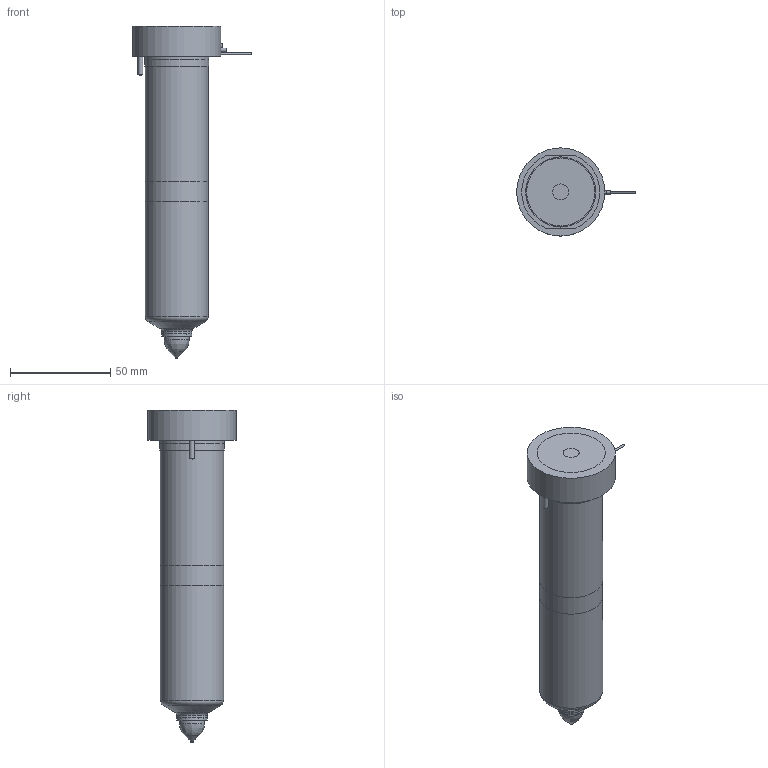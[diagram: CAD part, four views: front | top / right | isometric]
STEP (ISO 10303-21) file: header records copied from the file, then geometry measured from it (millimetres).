
FILE_DESCRIPTION(/* description */ (''),/* implementation_level */ '2;1');
FILE_NAME(/* name */ 'MXTT-MXIT19145-5_250C_b',/* time_stamp */ '2007-01-18T09:53:33+13:00',/* author */ (''),/* organization */ (''),/* preprocessor_version */ 'ST-DEVELOPER v9',/* originating_system */ 'UGS - NX 4.0',/* authorisation */ '');
FILE_SCHEMA (('CONFIG_CONTROL_DESIGN'));
Length unit declared in the file: millimetre
Products named in the file (1): MXTT-MXIT19145-5_250C_b
Bounding box: 59.25 x 44 x 165.69 mm (x, y, z)
Volume: 222667.8 mm3; surface area: 38013 mm2
Topology: 7 solids, 7 shells, 86 faces, 162 edges, 102 vertices
Faces by surface type: plane 35, cylinder 29, cone 12, torus 8, bspline 2
Full cylindrical faces by diameter (mm): 1 x3, 1.2 x1, 2 x2, 2.5 x2, 8 x1, 9 x1, 12.5 x1, 14.61 x1, 15.01 x2, 18.3 x1, 25.4 x1, 31.5 x2, 32 x2, 44 x1
Entity records: 2069 total; most frequent: CARTESIAN_POINT 427, DIRECTION 352, ORIENTED_EDGE 228, AXIS2_PLACEMENT_3D 163, EDGE_LOOP 138, EDGE_CURVE 114, VERTEX_POINT 95, ADVANCED_FACE 86
